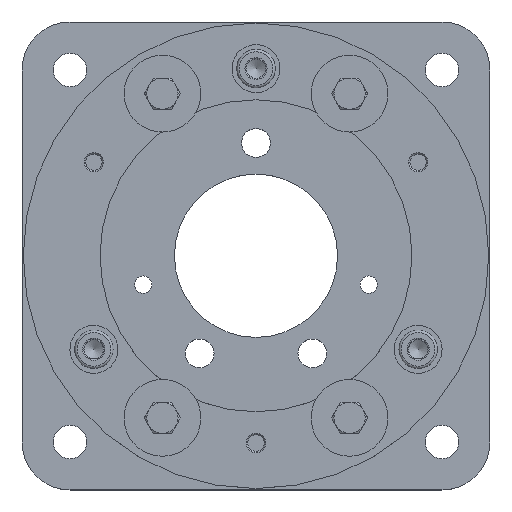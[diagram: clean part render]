
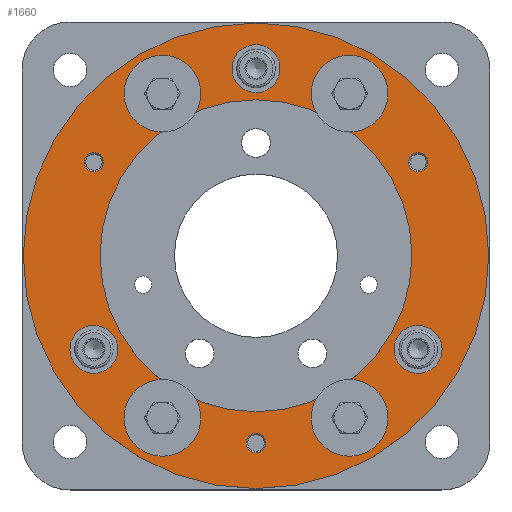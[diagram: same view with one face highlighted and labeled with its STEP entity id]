
A CAD part, top view. The second image highlights one B-rep face of the part: STEP entity #1660.
In plain terms, the highlighted planar face has unit normal (0, 0, 1).
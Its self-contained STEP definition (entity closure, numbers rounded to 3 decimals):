
#861=FACE_BOUND('',#2749,.T.);
#862=FACE_BOUND('',#2750,.T.);
#863=FACE_BOUND('',#2751,.T.);
#864=FACE_BOUND('',#2752,.T.);
#865=FACE_BOUND('',#2753,.T.);
#866=FACE_BOUND('',#2754,.T.);
#867=FACE_BOUND('',#2755,.T.);
#868=FACE_BOUND('',#2756,.T.);
#869=FACE_BOUND('',#2757,.T.);
#870=FACE_BOUND('',#2758,.T.);
#871=FACE_BOUND('',#2759,.T.);
#872=FACE_BOUND('',#2760,.T.);
#1211=CIRCLE('',#7134,97.);
#1213=CIRCLE('',#7137,60.);
#1224=CIRCLE('',#7150,4.);
#1225=CIRCLE('',#7151,4.);
#1226=CIRCLE('',#7152,4.);
#1227=CIRCLE('',#7153,4.);
#1228=CIRCLE('',#7154,4.);
#1229=CIRCLE('',#7155,4.);
#1230=CIRCLE('',#7156,4.);
#1231=CIRCLE('',#7157,6.);
#1232=CIRCLE('',#7158,6.);
#1233=CIRCLE('',#7159,6.);
#1660=ADVANCED_FACE('',(#861,#862,#863,#864,#865,#866,#867,#868,#869,#870,
#871,#872),#1947,.T.);
#1947=PLANE('',#7160);
#2749=EDGE_LOOP('',(#4947));
#2750=EDGE_LOOP('',(#4948));
#2751=EDGE_LOOP('',(#4949));
#2752=EDGE_LOOP('',(#4950));
#2753=EDGE_LOOP('',(#4951));
#2754=EDGE_LOOP('',(#4952));
#2755=EDGE_LOOP('',(#4953));
#2756=EDGE_LOOP('',(#4954));
#2757=EDGE_LOOP('',(#4955));
#2758=EDGE_LOOP('',(#4956));
#2759=EDGE_LOOP('',(#4957));
#2760=EDGE_LOOP('',(#4958));
#4947=ORIENTED_EDGE('',*,*,#6331,.F.);
#4948=ORIENTED_EDGE('',*,*,#6332,.F.);
#4949=ORIENTED_EDGE('',*,*,#6333,.F.);
#4950=ORIENTED_EDGE('',*,*,#6334,.F.);
#4951=ORIENTED_EDGE('',*,*,#6335,.F.);
#4952=ORIENTED_EDGE('',*,*,#6336,.F.);
#4953=ORIENTED_EDGE('',*,*,#6337,.F.);
#4954=ORIENTED_EDGE('',*,*,#6338,.F.);
#4955=ORIENTED_EDGE('',*,*,#6339,.F.);
#4956=ORIENTED_EDGE('',*,*,#6340,.F.);
#4957=ORIENTED_EDGE('',*,*,#6318,.T.);
#4958=ORIENTED_EDGE('',*,*,#6320,.F.);
#5551=VERTEX_POINT('',#12035);
#5553=VERTEX_POINT('',#12040);
#5564=VERTEX_POINT('',#12064);
#5565=VERTEX_POINT('',#12066);
#5566=VERTEX_POINT('',#12068);
#5567=VERTEX_POINT('',#12070);
#5568=VERTEX_POINT('',#12072);
#5569=VERTEX_POINT('',#12074);
#5570=VERTEX_POINT('',#12076);
#5571=VERTEX_POINT('',#12078);
#5572=VERTEX_POINT('',#12080);
#5573=VERTEX_POINT('',#12082);
#6318=EDGE_CURVE('',#5551,#5551,#1211,.T.);
#6320=EDGE_CURVE('',#5553,#5553,#1213,.T.);
#6331=EDGE_CURVE('',#5564,#5564,#1224,.T.);
#6332=EDGE_CURVE('',#5565,#5565,#1225,.T.);
#6333=EDGE_CURVE('',#5566,#5566,#1226,.T.);
#6334=EDGE_CURVE('',#5567,#5567,#1227,.T.);
#6335=EDGE_CURVE('',#5568,#5568,#1228,.T.);
#6336=EDGE_CURVE('',#5569,#5569,#1229,.T.);
#6337=EDGE_CURVE('',#5570,#5570,#1230,.T.);
#6338=EDGE_CURVE('',#5571,#5571,#1231,.T.);
#6339=EDGE_CURVE('',#5572,#5572,#1232,.T.);
#6340=EDGE_CURVE('',#5573,#5573,#1233,.T.);
#7134=AXIS2_PLACEMENT_3D('',#12034,#8778,#8779);
#7137=AXIS2_PLACEMENT_3D('',#12039,#8784,#8785);
#7150=AXIS2_PLACEMENT_3D('',#12063,#8810,#8811);
#7151=AXIS2_PLACEMENT_3D('',#12065,#8812,#8813);
#7152=AXIS2_PLACEMENT_3D('',#12067,#8814,#8815);
#7153=AXIS2_PLACEMENT_3D('',#12069,#8816,#8817);
#7154=AXIS2_PLACEMENT_3D('',#12071,#8818,#8819);
#7155=AXIS2_PLACEMENT_3D('',#12073,#8820,#8821);
#7156=AXIS2_PLACEMENT_3D('',#12075,#8822,#8823);
#7157=AXIS2_PLACEMENT_3D('',#12077,#8824,#8825);
#7158=AXIS2_PLACEMENT_3D('',#12079,#8826,#8827);
#7159=AXIS2_PLACEMENT_3D('',#12081,#8828,#8829);
#7160=AXIS2_PLACEMENT_3D('',#12083,#8830,#8831);
#8778=DIRECTION('',(0.,0.,1.));
#8779=DIRECTION('',(0.,1.,0.));
#8784=DIRECTION('',(0.,0.,1.));
#8785=DIRECTION('',(0.,1.,0.));
#8810=DIRECTION('',(0.,0.,1.));
#8811=DIRECTION('',(0.,1.,0.));
#8812=DIRECTION('',(0.,0.,1.));
#8813=DIRECTION('',(0.,1.,0.));
#8814=DIRECTION('',(0.,0.,1.));
#8815=DIRECTION('',(0.,1.,0.));
#8816=DIRECTION('',(0.,0.,1.));
#8817=DIRECTION('',(0.,1.,0.));
#8818=DIRECTION('',(0.,0.,1.));
#8819=DIRECTION('',(0.,1.,0.));
#8820=DIRECTION('',(0.,0.,1.));
#8821=DIRECTION('',(0.,1.,0.));
#8822=DIRECTION('',(0.,0.,1.));
#8823=DIRECTION('',(0.,1.,0.));
#8824=DIRECTION('',(0.,0.,1.));
#8825=DIRECTION('',(0.,1.,0.));
#8826=DIRECTION('',(0.,0.,1.));
#8827=DIRECTION('',(0.,1.,0.));
#8828=DIRECTION('',(0.,0.,1.));
#8829=DIRECTION('',(0.,1.,0.));
#8830=DIRECTION('',(0.,0.,1.));
#8831=DIRECTION('',(0.,1.,0.));
#12034=CARTESIAN_POINT('',(817.346,-60.21,-289.));
#12035=CARTESIAN_POINT('',(817.346,36.79,-289.));
#12039=CARTESIAN_POINT('',(817.346,-60.21,-289.));
#12040=CARTESIAN_POINT('',(817.346,-0.21,-289.));
#12063=CARTESIAN_POINT('',(778.346,7.34,-289.));
#12064=CARTESIAN_POINT('',(778.346,11.34,-289.));
#12065=CARTESIAN_POINT('',(856.346,7.34,-289.));
#12066=CARTESIAN_POINT('',(856.346,11.34,-289.));
#12067=CARTESIAN_POINT('',(749.796,-21.21,-289.));
#12068=CARTESIAN_POINT('',(749.796,-17.21,-289.));
#12069=CARTESIAN_POINT('',(884.896,-21.21,-289.));
#12070=CARTESIAN_POINT('',(884.896,-17.21,-289.));
#12071=CARTESIAN_POINT('',(778.346,-127.76,-289.));
#12072=CARTESIAN_POINT('',(778.346,-123.76,-289.));
#12073=CARTESIAN_POINT('',(856.346,-127.76,-289.));
#12074=CARTESIAN_POINT('',(856.346,-123.76,-289.));
#12075=CARTESIAN_POINT('',(817.346,-138.21,-289.));
#12076=CARTESIAN_POINT('',(817.346,-134.21,-289.));
#12077=CARTESIAN_POINT('',(817.346,17.79,-289.));
#12078=CARTESIAN_POINT('',(817.346,23.79,-289.));
#12079=CARTESIAN_POINT('',(749.796,-99.21,-289.));
#12080=CARTESIAN_POINT('',(749.796,-93.21,-289.));
#12081=CARTESIAN_POINT('',(884.896,-99.21,-289.));
#12082=CARTESIAN_POINT('',(884.896,-93.21,-289.));
#12083=CARTESIAN_POINT('',(817.346,-60.21,-289.));
